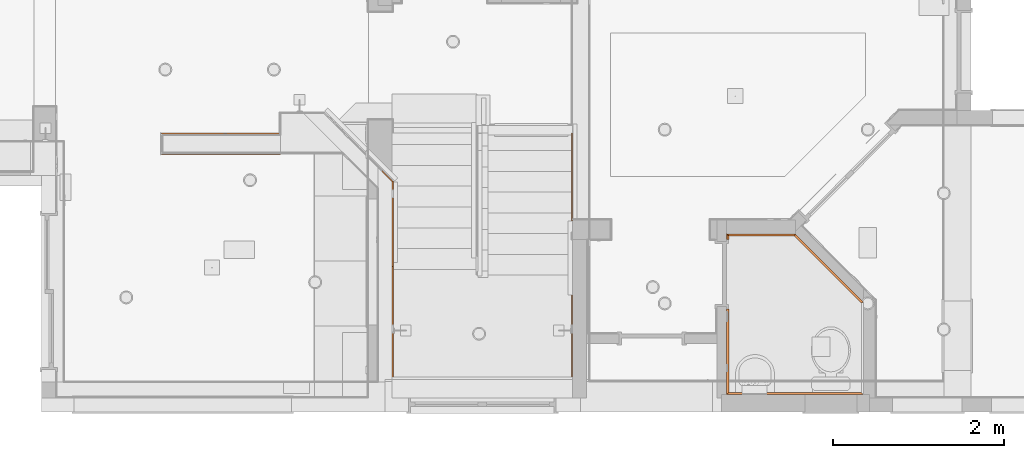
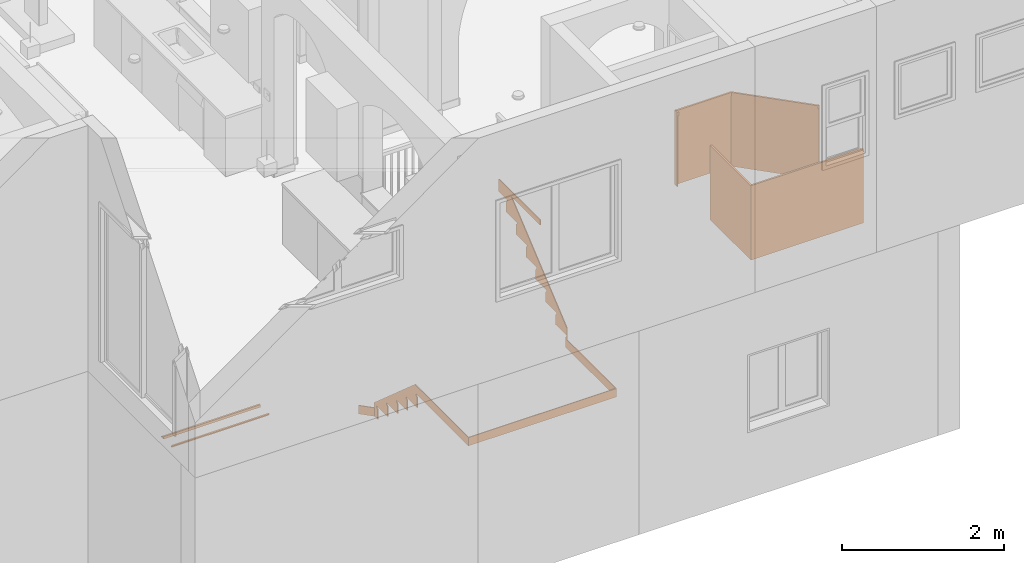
# One storey, part 58 of 60: 8 proxies.
"""IFC2X3 building model written with IfcOpenShell, lengths in feet."""

from ifc_helpers import new_model, entity, si_unit, converted_unit, direction, frame, origin, place, context, subcontext, project, spatial, faceted_brep, source, transform, mapped, material, type_object, type_shapes, element, save


model = new_model("IFC2X3")

# Units and contexts
model_context = context("Model", 3, precision=0.0001, world=origin(), true_north=direction((6.123031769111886e-17, 1.0)))
plan_context = context("Plan", 3, precision=0.0001, world=origin(), true_north=direction((6.123031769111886e-17, 1.0)))
body_context = subcontext(model_context, "Body", "Model", "MODEL_VIEW")
ifc_project = project(units=[converted_unit("LENGTHUNIT", "FOOT", entity("IfcLengthMeasure", 0.3048), si_unit("LENGTHUNIT", "METRE"), dimensions=[1, 0, 0, 0, 0, 0, 0]), converted_unit("AREAUNIT", "SQUARE FOOT", entity("IfcAreaMeasure", 0.09290304), si_unit("AREAUNIT", "SQUARE_METRE"), dimensions=[2, 0, 0, 0, 0, 0, 0]), converted_unit("PLANEANGLEUNIT", "DEGREE", entity("IfcPlaneAngleMeasure", 0.017453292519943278), si_unit("PLANEANGLEUNIT", "RADIAN"), dimensions=[0, 0, 0, 0, 0, 0, 0])], contexts=[model_context, plan_context])

# Site, building, storey
site_placement = place(None, origin())
site = spatial("IfcSite", under=ifc_project, at=site_placement, Name="Default", CompositionType="ELEMENT")
building_placement = place(site_placement, origin())
building = spatial("IfcBuilding", under=site, at=building_placement, CompositionType="ELEMENT")
storey_placement = place(building_placement, origin())
storey = spatial("IfcBuildingStorey", under=building, at=storey_placement, Name="First floor", CompositionType="ELEMENT", Elevation=0.0)

# Proxies
ifc_material = material(Name="Default New Material")
building_element_proxy_type_1 = type_object("IfcBuildingElementProxyType", Name="Generic Models 11:Generic Models 11", PredefinedType="NOTDEFINED", material=ifc_material)
shared_shape_1 = source(origin(), body_context, "Body", "Brep", [
    faceted_brep([(20.33333333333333, 10.70833333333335, 10.041666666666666), (20.33333333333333, 10.035714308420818, 10.041666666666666), (20.33333333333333, 10.035714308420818, 9.979166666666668), (20.33333333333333, 10.119047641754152, 9.895833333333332), (20.33333333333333, 10.119047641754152, 9.4140625), (20.33333333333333, 9.238095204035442, 9.4140625), (20.33333333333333, 9.238095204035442, 9.351562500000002), (20.33333333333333, 9.321428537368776, 9.268229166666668), (20.33333333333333, 9.321428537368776, 8.786458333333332), (20.33333333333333, 8.440476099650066, 8.786458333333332), (20.33333333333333, 8.440476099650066, 8.72395833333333), (20.33333333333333, 8.5238094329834, 8.640624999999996), (20.33333333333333, 8.5238094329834, 8.158854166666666), (20.33333333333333, 7.642857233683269, 8.158854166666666), (20.33333333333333, 7.642857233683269, 8.096354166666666), (20.33333333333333, 7.7261905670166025, 8.013020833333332), (20.33333333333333, 7.7261905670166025, 7.53125), (20.33333333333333, 6.845237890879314, 7.53125), (20.33333333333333, 6.845237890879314, 7.468750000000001), (20.33333333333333, 6.928571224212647, 7.385416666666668), (20.33333333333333, 6.928571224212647, 6.903645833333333), (20.33333333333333, 6.0476190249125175, 6.903645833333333), (20.33333333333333, 6.0476190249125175, 6.84114583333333), (20.33333333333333, 6.1309523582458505, 6.757812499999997), (20.33333333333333, 6.1309523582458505, 6.276041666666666), (20.33333333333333, 5.250000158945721, 6.276041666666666), (20.33333333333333, 5.250000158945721, 6.213541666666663), (20.33333333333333, 5.333333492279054, 6.13020833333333), (20.33333333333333, 5.333333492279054, 5.6484375), (20.33333333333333, 5.208333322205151, 5.6484375), (20.33333333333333, 5.208333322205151, 6.648437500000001), (20.33333333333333, 9.699133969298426, 10.416666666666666), (20.33333333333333, 7.375000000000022, 10.416666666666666), (20.33333333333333, 7.375000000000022, 10.666666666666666), (20.33333333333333, 10.70833333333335, 10.666666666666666), (20.374999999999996, 10.70833333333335, 10.041666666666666), (20.374999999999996, 10.70833333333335, 10.666666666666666), (20.374999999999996, 7.375000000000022, 10.666666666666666), (20.374999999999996, 7.375000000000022, 10.416666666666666), (20.374999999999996, 9.699133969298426, 10.416666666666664), (20.374999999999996, 5.208333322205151, 6.648437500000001), (20.374999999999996, 5.208333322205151, 5.6484375), (20.374999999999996, 5.333333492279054, 5.6484375), (20.374999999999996, 5.333333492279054, 6.13020833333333), (20.374999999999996, 5.250000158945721, 6.213541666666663), (20.374999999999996, 5.250000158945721, 6.276041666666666), (20.374999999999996, 6.1309523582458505, 6.276041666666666), (20.374999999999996, 6.1309523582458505, 6.757812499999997), (20.374999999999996, 6.0476190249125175, 6.84114583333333), (20.374999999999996, 6.0476190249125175, 6.903645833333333), (20.374999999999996, 6.928571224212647, 6.903645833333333), (20.374999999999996, 6.928571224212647, 7.385416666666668), (20.374999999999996, 6.845237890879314, 7.468750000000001), (20.374999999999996, 6.845237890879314, 7.53125), (20.374999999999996, 7.7261905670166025, 7.53125), (20.374999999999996, 7.726190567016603, 8.013020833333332), (20.374999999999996, 7.642857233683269, 8.096354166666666), (20.374999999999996, 7.642857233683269, 8.158854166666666), (20.374999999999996, 8.5238094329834, 8.158854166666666), (20.374999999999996, 8.5238094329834, 8.640624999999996), (20.374999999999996, 8.440476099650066, 8.72395833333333), (20.374999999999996, 8.440476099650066, 8.786458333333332), (20.374999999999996, 9.321428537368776, 8.786458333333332), (20.374999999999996, 9.321428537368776, 9.268229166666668), (20.374999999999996, 9.238095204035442, 9.351562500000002), (20.374999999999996, 9.238095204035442, 9.4140625), (20.374999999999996, 10.119047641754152, 9.4140625), (20.374999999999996, 10.119047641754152, 9.895833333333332), (20.374999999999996, 10.035714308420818, 9.979166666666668), (20.374999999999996, 10.035714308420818, 10.041666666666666)], [[[0, 1, 2, 3, 4, 5, 6, 7, 8, 9, 10, 11, 12, 13, 14, 15, 16, 17, 18, 19, 20, 21, 22, 23, 24, 25, 26, 27, 28, 29, 30, 31, 32, 33, 34]], [[35, 36, 37, 38, 39, 40, 41, 42, 43, 44, 45, 46, 47, 48, 49, 50, 51, 52, 53, 54, 55, 56, 57, 58, 59, 60, 61, 62, 63, 64, 65, 66, 67, 68, 69]], [[1, 0, 35, 69]], [[2, 1, 69, 68]], [[3, 2, 68, 67]], [[4, 3, 67, 66]], [[5, 4, 66, 65]], [[6, 5, 65, 64]], [[7, 6, 64, 63]], [[8, 7, 63, 62]], [[9, 8, 62, 61]], [[10, 9, 61, 60]], [[11, 10, 60, 59]], [[12, 11, 59, 58]], [[13, 12, 58, 57]], [[14, 13, 57, 56]], [[15, 14, 56, 55]], [[16, 15, 55, 54]], [[17, 16, 54, 53]], [[18, 17, 53, 52]], [[19, 18, 52, 51]], [[20, 19, 51, 50]], [[21, 20, 50, 49]], [[22, 21, 49, 48]], [[23, 22, 48, 47]], [[24, 23, 47, 46]], [[25, 24, 46, 45]], [[26, 25, 45, 44]], [[27, 26, 44, 43]], [[28, 27, 43, 42]], [[29, 28, 42, 41]], [[30, 29, 41, 40]], [[31, 30, 40, 39]], [[32, 31, 39, 38]], [[33, 32, 38, 37]], [[34, 33, 37, 36]], [[0, 34, 36, 35]]]),
    faceted_brep([(13.487795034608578, 8.862797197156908, 2.5104166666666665), (13.018083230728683, 9.332509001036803, 2.5104166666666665), (13.018083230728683, 9.332509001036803, 2.927083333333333), (13.487795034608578, 8.862797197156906, 2.927083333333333), (13.458332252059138, 8.833334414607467, 2.927083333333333), (12.988620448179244, 9.303046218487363, 2.927083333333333), (12.988620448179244, 9.303046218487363, 2.5104166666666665), (13.458332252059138, 8.833334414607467, 2.5104166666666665), (13.499998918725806, 8.862797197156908, 2.5104166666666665), (13.499998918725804, 8.58035715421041, 2.5104166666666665), (13.45833225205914, 8.58035715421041, 2.5104166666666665), (13.45833225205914, 8.862797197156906, 2.927083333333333), (13.499998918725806, 8.58035715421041, 2.992187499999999), (13.499998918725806, 8.862797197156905, 3.177083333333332), (13.499998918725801, 5.579146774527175, 6.06374215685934), (13.499998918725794, 1.2916666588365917, 6.063728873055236), (13.499998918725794, 1.2916666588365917, 5.6484375), (13.499998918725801, 5.473214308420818, 5.6484375), (13.499998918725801, 5.473214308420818, 5.585937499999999), (13.499998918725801, 5.389880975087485, 5.502604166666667), (13.499998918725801, 5.389880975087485, 5.020833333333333), (13.499998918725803, 6.270833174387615, 5.020833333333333), (13.499998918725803, 6.270833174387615, 4.958333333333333), (13.499998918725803, 6.187499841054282, 4.875), (13.499998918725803, 6.187499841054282, 4.393229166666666), (13.499998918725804, 7.06845251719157, 4.393229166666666), (13.499998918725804, 7.06845251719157, 4.330729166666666), (13.499998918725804, 6.985119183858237, 4.247395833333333), (13.499998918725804, 6.985119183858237, 3.765625), (13.499998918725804, 7.866071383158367, 3.765625), (13.499998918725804, 7.866071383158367, 3.703124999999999), (13.499998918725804, 7.782738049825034, 3.6197916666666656), (13.499998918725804, 7.782738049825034, 3.138020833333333), (13.499998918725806, 8.663690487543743, 3.138020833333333), (13.499998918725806, 8.663690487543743, 3.0755208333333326), (13.45833225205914, 8.58035715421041, 2.992187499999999), (13.45833225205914, 8.663690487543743, 3.0755208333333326), (13.45833225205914, 8.663690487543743, 3.138020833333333), (13.458332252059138, 7.782738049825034, 3.138020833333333), (13.458332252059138, 7.782738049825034, 3.6197916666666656), (13.458332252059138, 7.866071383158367, 3.703124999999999), (13.458332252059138, 7.866071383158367, 3.765625), (13.458332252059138, 6.985119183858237, 3.765625), (13.458332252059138, 6.985119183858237, 4.247395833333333), (13.458332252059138, 7.06845251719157, 4.330729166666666), (13.458332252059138, 7.06845251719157, 4.393229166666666), (13.458332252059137, 6.187499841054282, 4.393229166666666), (13.458332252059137, 6.187499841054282, 4.875), (13.458332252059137, 6.270833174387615, 4.958333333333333), (13.458332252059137, 6.270833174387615, 5.020833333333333), (13.458332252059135, 5.389880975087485, 5.020833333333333), (13.458332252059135, 5.389880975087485, 5.502604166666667), (13.458332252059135, 5.473214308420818, 5.585937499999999), (13.458332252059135, 5.473214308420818, 5.6484375), (13.458332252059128, 1.2500000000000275, 5.6484375), (13.458332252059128, 1.2500000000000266, 6.063728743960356), (13.458332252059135, 5.579146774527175, 6.06374215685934), (13.45833225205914, 8.862797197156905, 3.177083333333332), (20.374999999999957, 1.2500000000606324, 6.063728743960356), (20.374999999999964, 5.20833332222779, 6.063741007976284), (20.333333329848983, 5.20833332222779, 6.063741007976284), (20.333333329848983, 1.2916666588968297, 6.063728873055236), (20.374999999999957, 1.2500000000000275, 6.063748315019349), (20.374999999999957, 1.2499999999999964, 5.6484375), (13.499999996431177, 1.2916666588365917, 5.6484375), (20.333333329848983, 1.2916666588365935, 5.6484375), (20.333333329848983, 5.208333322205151, 5.6484375), (20.374999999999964, 5.208333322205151, 5.6484375), (20.374999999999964, 5.208333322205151, 6.063748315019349), (20.333333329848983, 5.208333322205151, 6.063748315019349), (13.499999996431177, 1.291666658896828, 6.063728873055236), (20.333333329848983, 1.2916666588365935, 6.063748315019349)], [[[0, 1, 2, 3]], [[4, 5, 6, 7]], [[1, 0, 8, 9, 10, 7, 6]], [[2, 1, 6, 5]], [[3, 2, 5, 4, 11]], [[12, 9, 8, 13, 14, 15, 16, 17, 18, 19, 20, 21, 22, 23, 24, 25, 26, 27, 28, 29, 30, 31, 32, 33, 34]], [[35, 36, 37, 38, 39, 40, 41, 42, 43, 44, 45, 46, 47, 48, 49, 50, 51, 52, 53, 54, 55, 56, 57, 11, 4, 7, 10]], [[9, 12, 35, 10]], [[13, 8, 0, 3, 11, 57]], [[14, 13, 57, 56]], [[56, 55, 58, 59, 60, 61, 15, 14]], [[62, 55, 54, 63]], [[63, 54, 53, 17, 64, 65, 66, 67]], [[18, 17, 53, 52]], [[19, 18, 52, 51]], [[20, 19, 51, 50]], [[21, 20, 50, 49]], [[22, 21, 49, 48]], [[23, 22, 48, 47]], [[24, 23, 47, 46]], [[25, 24, 46, 45]], [[26, 25, 45, 44]], [[27, 26, 44, 43]], [[28, 27, 43, 42]], [[29, 28, 42, 41]], [[30, 29, 41, 40]], [[31, 30, 40, 39]], [[32, 31, 39, 38]], [[33, 32, 38, 37]], [[34, 33, 37, 36]], [[12, 34, 36, 35]], [[59, 62, 63, 67]], [[60, 68, 67, 66]], [[61, 69, 66, 65]], [[70, 71, 65, 16]]]),
])
type_shapes(building_element_proxy_type_1, [shared_shape_1])
proxy_1_placement = place(storey_placement, origin())
element("IfcBuildingElementProxy", 1, at=proxy_1_placement, inside=storey, type_object=building_element_proxy_type_1, material=ifc_material, Name="Generic Models 11:Generic Models 11", ObjectType="Generic Models 11:Generic Models 11", context=body_context, shape_type="MappedRepresentation", body=[
    mapped(shared_shape_1, transform((0.0, 0.0, 0.0), scale=1.0)),
])
building_element_proxy_type_2 = type_object("IfcBuildingElementProxyType", Name="C_Ceiling Plinth:C_Ceiling Plinth", PredefinedType="NOTDEFINED", material=ifc_material)
shared_shape_2 = source(origin(), body_context, "Body", "Brep", [
    faceted_brep([(4.520759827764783, 0.0, 0.0), (4.520759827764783, 0.0, -0.12500000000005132), (0.0, 0.0, -0.12500000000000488), (0.0, 0.0, 0.0), (4.604093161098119, -0.08333333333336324, 0.0), (0.0, -0.08333333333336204, 0.0)], [[[0, 1, 2, 3]], [[4, 0, 3, 5]], [[1, 4, 5, 2]], [[1, 0, 4]], [[3, 2, 5]]]),
])
type_shapes(building_element_proxy_type_2, [shared_shape_2])
proxy_2_placement = place(storey_placement, frame((9.171394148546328, 10.625057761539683, 3.500000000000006), z_axis=(0.0, 0.0, 1.0), x_axis=(-1.0, 0.0, 0.0)))
element("IfcBuildingElementProxy", 2, at=proxy_2_placement, inside=storey, type_object=building_element_proxy_type_2, material=ifc_material, Name="C_Ceiling Plinth:C_Ceiling Plinth", ObjectType="C_Ceiling Plinth:C_Ceiling Plinth", context=body_context, shape_type="MappedRepresentation", body=[
    mapped(shared_shape_2, transform((0.0, 0.0, 0.0), scale=1.0)),
])
building_element_proxy_type_3 = type_object("IfcBuildingElementProxyType", Name="C_Ceiling Plinth:C_Ceiling Plinth", PredefinedType="NOTDEFINED", material=ifc_material)
shared_shape_3 = source(origin(), body_context, "Body", "Brep", [
    faceted_brep([(4.520759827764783, 0.0, 0.0), (4.520759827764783, 0.0, -0.12500000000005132), (0.0, 0.0, -0.12500000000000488), (0.0, 0.0, 0.0), (4.520759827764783, -0.08333333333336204, 0.0), (-0.08333333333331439, -0.08333333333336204, 0.0)], [[[0, 1, 2, 3]], [[4, 0, 3, 5]], [[1, 4, 5, 2]], [[1, 0, 4]], [[3, 2, 5]]]),
])
type_shapes(building_element_proxy_type_3, [shared_shape_3])
proxy_3_placement = place(storey_placement, frame((4.6506343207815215, 9.958391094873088, 3.500000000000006)))
element("IfcBuildingElementProxy", 3, at=proxy_3_placement, inside=storey, type_object=building_element_proxy_type_3, material=ifc_material, Name="C_Ceiling Plinth:C_Ceiling Plinth", ObjectType="C_Ceiling Plinth:C_Ceiling Plinth", context=body_context, shape_type="MappedRepresentation", body=[
    mapped(shared_shape_3, transform((0.0, 0.0, 0.0), scale=1.0)),
])
building_element_proxy_type_4 = type_object("IfcBuildingElementProxyType", Name="C_Wall Board:C_Wall Board", PredefinedType="NOTDEFINED", material=ifc_material)
shared_shape_4 = source(origin(), body_context, "Body", "Brep", [
    faceted_brep([(2.6363365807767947, 0.0, 3.666666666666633), (2.6363365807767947, 0.0, 0.0), (0.0, 0.0, 0.0), (0.0, 0.0, 3.6666666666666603), (2.6018187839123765, -0.083333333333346, 3.6666666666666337), (0.0833333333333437, -0.08333333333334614, 3.6666666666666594), (2.6018187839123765, -0.083333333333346, 3.499999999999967), (2.6190776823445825, -0.04166666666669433, 3.4999999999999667), (2.6190776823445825, -0.04166666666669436, 0.0), (0.04166666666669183, -0.04166666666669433, 0.0), (0.04166666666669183, -0.04166666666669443, 3.4999999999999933), (0.0833333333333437, -0.08333333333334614, 3.499999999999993)], [[[0, 1, 2, 3]], [[4, 0, 3, 5]], [[1, 0, 4, 6, 7, 8]], [[3, 2, 9, 10, 11, 5]], [[8, 7, 10, 9]], [[1, 8, 9, 2]], [[6, 4, 5, 11]], [[7, 6, 11, 10]]]),
])
type_shapes(building_element_proxy_type_4, [shared_shape_4])
proxy_4_placement = place(storey_placement, frame((26.291666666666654, 6.833333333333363, 10.666666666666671)))
element("IfcBuildingElementProxy", 4, at=proxy_4_placement, inside=storey, type_object=building_element_proxy_type_4, material=ifc_material, Name="C_Wall Board:C_Wall Board", ObjectType="C_Wall Board:C_Wall Board", context=body_context, shape_type="MappedRepresentation", body=[
    mapped(shared_shape_4, transform((0.0, 0.0, 0.0), scale=1.0)),
])
building_element_proxy_type_5 = type_object("IfcBuildingElementProxyType", Name="C_Wall Board:C_Wall Board", PredefinedType="NOTDEFINED", material=ifc_material)
shared_shape_5 = source(origin(), body_context, "Body", "Brep", [
    faceted_brep([(3.291666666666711, 0.0, 3.666666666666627), (3.2916666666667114, 0.0, 0.0), (0.0, 0.0, 0.0), (0.0, 0.0, 3.6666666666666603), (3.291666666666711, -0.08333333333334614, 3.6666666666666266), (0.0833333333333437, -0.08333333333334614, 3.6666666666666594), (3.291666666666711, -0.08333333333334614, 3.49999999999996), (3.291666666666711, -0.04166666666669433, 3.49999999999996), (3.291666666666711, -0.04166666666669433, 0.0), (0.04166666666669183, -0.04166666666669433, 0.0), (0.04166666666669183, -0.04166666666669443, 3.4999999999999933), (0.0833333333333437, -0.08333333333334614, 3.499999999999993)], [[[0, 1, 2, 3]], [[4, 0, 3, 5]], [[1, 0, 4, 6, 7, 8]], [[3, 2, 9, 10, 11, 5]], [[8, 7, 10, 9]], [[1, 8, 9, 2]], [[6, 4, 5, 11]], [[7, 6, 11, 10]]]),
])
type_shapes(building_element_proxy_type_5, [shared_shape_5])
proxy_5_placement = place(storey_placement, frame((26.291666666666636, 0.6666666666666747, 10.666666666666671), z_axis=(0.0, 0.0, 1.0), x_axis=(0.0, 1.0, 0.0)))
element("IfcBuildingElementProxy", 5, at=proxy_5_placement, inside=storey, type_object=building_element_proxy_type_5, material=ifc_material, Name="C_Wall Board:C_Wall Board", ObjectType="C_Wall Board:C_Wall Board", context=body_context, shape_type="MappedRepresentation", body=[
    mapped(shared_shape_5, transform((0.0, 0.0, 0.0), scale=1.0)),
])
building_element_proxy_type_6 = type_object("IfcBuildingElementProxyType", Name="C_Wall Board:C_Wall Board", PredefinedType="NOTDEFINED", material=ifc_material)
shared_shape_6 = source(origin(), body_context, "Body", "Brep", [
    faceted_brep([(3.6962782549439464, 0.0, 3.6666666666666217), (3.696278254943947, 0.0, 0.0), (0.0, 0.0, 0.0), (0.0, 0.0, 3.6666666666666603), (3.661760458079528, -0.08333333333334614, 3.6666666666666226), (0.03451779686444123, -0.08333333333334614, 3.66666666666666), (3.661760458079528, -0.08333333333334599, 3.499999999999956), (3.679019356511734, -0.04166666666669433, 3.499999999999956), (3.679019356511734, -0.041666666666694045, 0.0), (0.017258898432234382, -0.04166666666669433, 0.0), (0.017258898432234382, -0.04166666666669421, 3.4999999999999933), (0.03451779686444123, -0.08333333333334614, 3.4999999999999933)], [[[0, 1, 2, 3]], [[4, 0, 3, 5]], [[1, 0, 4, 6, 7, 8]], [[3, 2, 9, 10, 11, 5]], [[8, 7, 10, 9]], [[1, 8, 9, 2]], [[6, 4, 5, 11]], [[7, 6, 11, 10]]]),
])
type_shapes(building_element_proxy_type_6, [shared_shape_6])
proxy_6_placement = place(storey_placement, frame((28.928003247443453, 6.833333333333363, 10.666666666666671), z_axis=(0.0, 0.0, 1.0), x_axis=(0.7071067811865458, -0.7071067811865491, 0.0)))
element("IfcBuildingElementProxy", 6, at=proxy_6_placement, inside=storey, type_object=building_element_proxy_type_6, material=ifc_material, Name="C_Wall Board:C_Wall Board", ObjectType="C_Wall Board:C_Wall Board", context=body_context, shape_type="MappedRepresentation", body=[
    mapped(shared_shape_6, transform((0.0, 0.0, 0.0), scale=1.0)),
])
building_element_proxy_type_7 = type_object("IfcBuildingElementProxyType", Name="C_Wall Board:C_Wall Board", PredefinedType="NOTDEFINED", material=ifc_material)
shared_shape_7 = source(origin(), body_context, "Body", "Brep", [
    faceted_brep([(5.250000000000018, 0.0, 3.666666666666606), (5.250000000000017, 0.0, 0.0), (0.0, 0.0, 0.0), (0.0, 0.0, 3.6666666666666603), (5.166666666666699, -0.08333333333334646, 3.666666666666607), (0.08333333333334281, -0.08333333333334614, 3.6666666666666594), (5.166666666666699, -0.08333333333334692, 3.4999999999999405), (5.208333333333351, -0.04166666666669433, 3.49999999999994), (5.208333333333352, -0.04166666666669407, 0.0), (0.041666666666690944, -0.04166666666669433, 0.0), (0.04166666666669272, -0.04166666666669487, 3.4999999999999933), (0.08333333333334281, -0.08333333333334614, 3.499999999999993)], [[[0, 1, 2, 3]], [[4, 0, 3, 5]], [[1, 0, 4, 6, 7, 8]], [[3, 2, 9, 10, 11, 5]], [[8, 7, 10, 9]], [[1, 8, 9, 2]], [[6, 4, 5, 11]], [[7, 6, 11, 10]]]),
])
type_shapes(building_element_proxy_type_7, [shared_shape_7])
proxy_7_placement = place(storey_placement, frame((31.541666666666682, 0.6666666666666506, 10.666666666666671), z_axis=(0.0, 0.0, 1.0), x_axis=(-1.0, 0.0, 0.0)))
element("IfcBuildingElementProxy", 7, at=proxy_7_placement, inside=storey, type_object=building_element_proxy_type_7, material=ifc_material, Name="C_Wall Board:C_Wall Board", ObjectType="C_Wall Board:C_Wall Board", context=body_context, shape_type="MappedRepresentation", body=[
    mapped(shared_shape_7, transform((0.0, 0.0, 0.0), scale=1.0)),
])
building_element_proxy_type_8 = type_object("IfcBuildingElementProxyType", Name="C_Wall Board:C_Wall Board", PredefinedType="NOTDEFINED", material=ifc_material)
shared_shape_8 = source(origin(), body_context, "Body", "Brep", [
    faceted_brep([(0.20833333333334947, 0.0, 3.666666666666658), (0.20833333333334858, 0.0, 0.0), (0.0, 0.0, 0.0), (0.0, 0.0, 3.6666666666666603), (0.12500000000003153, -0.08333333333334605, 3.666666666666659), (0.0, -0.08333333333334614, 3.6666666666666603), (0.1250000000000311, -0.0833333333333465, 3.4999999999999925), (0.16666666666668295, -0.04166666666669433, 3.499999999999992), (0.16666666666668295, -0.04166666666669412, 0.0), (0.0, -0.04166666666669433, 0.0), (0.0, -0.04166666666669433, 3.499999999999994), (0.0, -0.08333333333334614, 3.499999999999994)], [[[0, 1, 2, 3]], [[4, 0, 3, 5]], [[1, 0, 4, 6, 7, 8]], [[3, 2, 9, 10, 11, 5]], [[8, 7, 10, 9]], [[1, 8, 9, 2]], [[6, 4, 5, 11]], [[7, 6, 11, 10]]]),
])
type_shapes(building_element_proxy_type_8, [shared_shape_8])
proxy_8_placement = place(storey_placement, frame((26.291666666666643, 6.624999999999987, 10.666666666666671), z_axis=(0.0, 0.0, 1.0), x_axis=(0.0, 1.0, 0.0)))
element("IfcBuildingElementProxy", 8, at=proxy_8_placement, inside=storey, type_object=building_element_proxy_type_8, material=ifc_material, Name="C_Wall Board:C_Wall Board", ObjectType="C_Wall Board:C_Wall Board", context=body_context, shape_type="MappedRepresentation", body=[
    mapped(shared_shape_8, transform((0.0, 0.0, 0.0), scale=1.0)),
])

save(model, "model.ifc")
